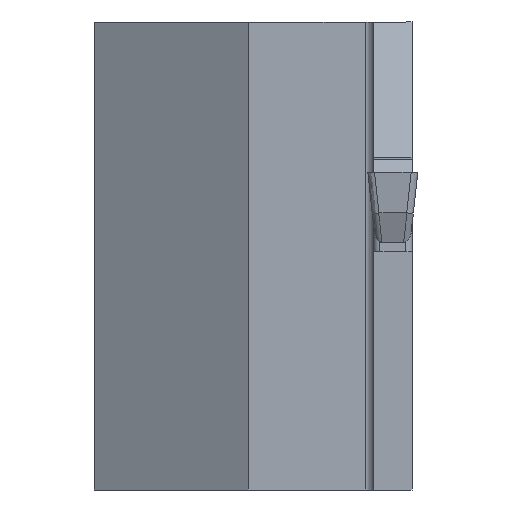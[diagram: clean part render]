
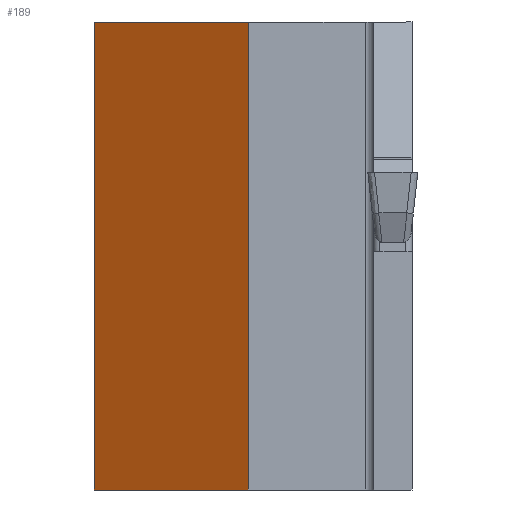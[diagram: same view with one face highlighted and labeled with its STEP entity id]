
A CAD part, left-side view. The second image highlights one B-rep face of the part: STEP entity #189.
In plain terms, the highlighted planar face has unit normal (-0.866, 0.5, 0).
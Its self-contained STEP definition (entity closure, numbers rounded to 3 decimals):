
#189=ADVANCED_FACE('',(#283),#231,.F.);
#231=PLANE('',#1153);
#283=FACE_OUTER_BOUND('',#337,.T.);
#337=EDGE_LOOP('',(#575,#576,#577,#578));
#575=ORIENTED_EDGE('',*,*,#836,.T.);
#576=ORIENTED_EDGE('',*,*,#842,.F.);
#577=ORIENTED_EDGE('',*,*,#853,.F.);
#578=ORIENTED_EDGE('',*,*,#852,.T.);
#710=VERTEX_POINT('',#1723);
#711=VERTEX_POINT('',#1725);
#716=VERTEX_POINT('',#1736);
#722=VERTEX_POINT('',#1753);
#836=EDGE_CURVE('',#711,#710,#949,.T.);
#842=EDGE_CURVE('',#716,#710,#954,.T.);
#852=EDGE_CURVE('',#722,#711,#963,.T.);
#853=EDGE_CURVE('',#722,#716,#964,.T.);
#949=LINE('',#1724,#1063);
#954=LINE('',#1737,#1068);
#963=LINE('',#1755,#1077);
#964=LINE('',#1757,#1078);
#1063=VECTOR('',#1360,1.);
#1068=VECTOR('',#1369,1.);
#1077=VECTOR('',#1384,1.);
#1078=VECTOR('',#1387,1.);
#1153=AXIS2_PLACEMENT_3D('',#1758,#1388,#1389);
#1360=DIRECTION('',(0.5,0.866,0.));
#1369=DIRECTION('',(0.,0.,1.));
#1384=DIRECTION('',(0.,0.,1.));
#1387=DIRECTION('',(0.5,0.866,0.));
#1388=DIRECTION('',(0.866,-0.5,0.));
#1389=DIRECTION('',(-0.5,-0.866,0.));
#1723=CARTESIAN_POINT('',(23.12,17.9,9.));
#1724=CARTESIAN_POINT('',(17.78,8.65,9.));
#1725=CARTESIAN_POINT('',(17.78,8.65,9.));
#1736=CARTESIAN_POINT('',(23.12,17.9,-19.05));
#1737=CARTESIAN_POINT('',(23.12,17.9,-19.05));
#1753=CARTESIAN_POINT('',(17.78,8.65,-19.05));
#1755=CARTESIAN_POINT('',(17.78,8.65,-19.05));
#1757=CARTESIAN_POINT('',(17.78,8.65,-19.05));
#1758=CARTESIAN_POINT('',(17.78,8.65,-19.05));
